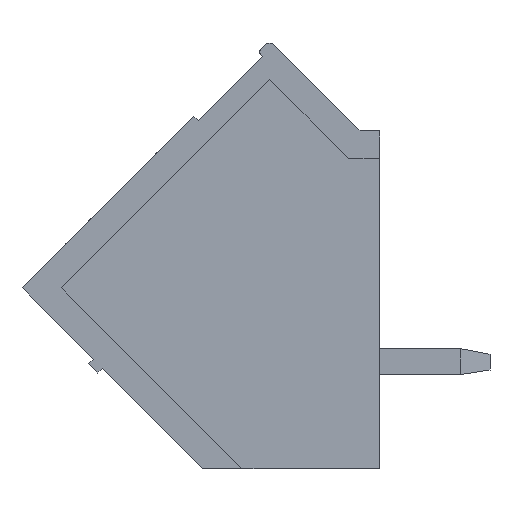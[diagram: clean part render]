
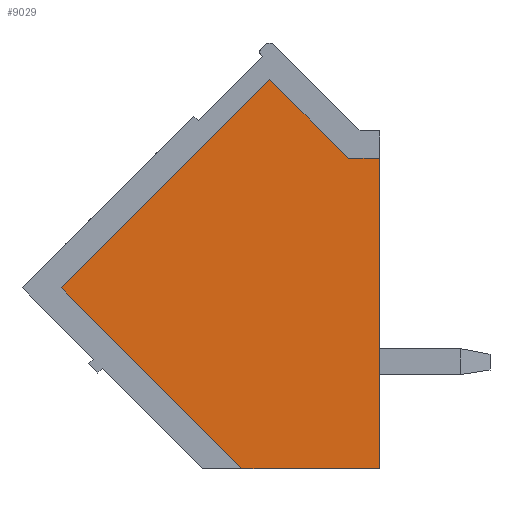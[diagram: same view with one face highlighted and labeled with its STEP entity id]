
A CAD part, left-side view. The second image highlights one B-rep face of the part: STEP entity #9029.
In plain terms, the highlighted planar face has unit normal (-1, 0, 0).
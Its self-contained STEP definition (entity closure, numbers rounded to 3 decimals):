
#572=DIRECTION('',(0.,-1.,0.));
#573=VECTOR('',#572,4.232);
#574=CARTESIAN_POINT('',(0.3,9.432,-13.183));
#575=LINE('',#574,#573);
#1486=DIRECTION('',(0.,1.,0.));
#1487=VECTOR('',#1486,0.952);
#1488=CARTESIAN_POINT('',(0.3,5.2,-3.633));
#1489=LINE('',#1488,#1487);
#1502=DIRECTION('',(0.,0.,1.));
#1503=VECTOR('',#1502,9.55);
#1504=CARTESIAN_POINT('',(0.3,5.2,-13.183));
#1505=LINE('',#1504,#1503);
#1742=DIRECTION('',(0.,0.707,0.707));
#1743=VECTOR('',#1742,7.871);
#1744=CARTESIAN_POINT('',(0.3,9.432,-13.183));
#1745=LINE('',#1744,#1743);
#1746=DIRECTION('',(0.,-0.707,0.707));
#1747=VECTOR('',#1746,9.072);
#1748=CARTESIAN_POINT('',(0.3,14.998,-7.617));
#1749=LINE('',#1748,#1747);
#1750=DIRECTION('',(0.,-0.707,-0.707));
#1751=VECTOR('',#1750,3.438);
#1752=CARTESIAN_POINT('',(0.3,8.583,-1.202));
#1753=LINE('',#1752,#1751);
#5318=CARTESIAN_POINT('',(0.3,14.998,-7.617));
#5319=VERTEX_POINT('',#5318);
#5320=CARTESIAN_POINT('',(0.3,9.432,-13.183));
#5321=VERTEX_POINT('',#5320);
#5322=CARTESIAN_POINT('',(0.3,8.583,-1.202));
#5323=VERTEX_POINT('',#5322);
#5324=CARTESIAN_POINT('',(0.3,6.152,-3.633));
#5325=VERTEX_POINT('',#5324);
#5326=CARTESIAN_POINT('',(0.3,5.2,-3.633));
#5327=VERTEX_POINT('',#5326);
#5332=CARTESIAN_POINT('',(0.3,5.2,-13.183));
#5333=VERTEX_POINT('',#5332);
#9016=CARTESIAN_POINT('',(0.3,5.2,-13.183));
#9017=DIRECTION('',(1.,0.,0.));
#9018=DIRECTION('',(0.,-1.,0.));
#9019=AXIS2_PLACEMENT_3D('',#9016,#9017,#9018);
#9020=PLANE('',#9019);
#9021=ORIENTED_EDGE('',*,*,#8692,.F.);
#9022=ORIENTED_EDGE('',*,*,#7328,.F.);
#9023=ORIENTED_EDGE('',*,*,#8636,.T.);
#9024=ORIENTED_EDGE('',*,*,#8650,.T.);
#9025=ORIENTED_EDGE('',*,*,#8664,.T.);
#9026=ORIENTED_EDGE('',*,*,#8678,.F.);
#9027=EDGE_LOOP('',(#9021,#9022,#9023,#9024,#9025,#9026));
#9028=FACE_OUTER_BOUND('',#9027,.F.);
#9029=ADVANCED_FACE('',(#9028),#9020,.F.);
#7328=EDGE_CURVE('',#5321,#5333,#575,.T.);
#8636=EDGE_CURVE('',#5321,#5319,#1745,.T.);
#8650=EDGE_CURVE('',#5319,#5323,#1749,.T.);
#8664=EDGE_CURVE('',#5323,#5325,#1753,.T.);
#8678=EDGE_CURVE('',#5327,#5325,#1489,.T.);
#8692=EDGE_CURVE('',#5333,#5327,#1505,.T.);
